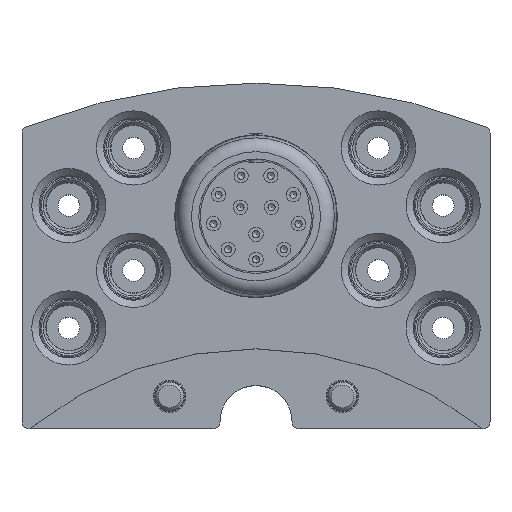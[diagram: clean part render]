
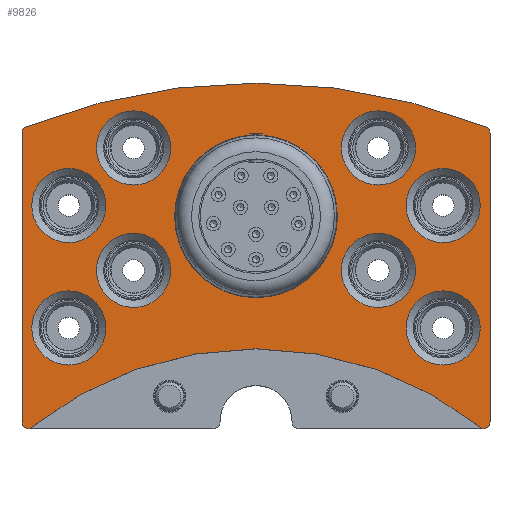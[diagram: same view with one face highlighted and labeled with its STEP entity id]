
A CAD part, top view. The second image highlights one B-rep face of the part: STEP entity #9826.
In plain terms, the highlighted planar face has unit normal (0, 0, 1).
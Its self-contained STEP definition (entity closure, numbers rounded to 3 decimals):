
#256=FACE_BOUND('',#1511,.T.);
#257=FACE_BOUND('',#1512,.T.);
#258=FACE_BOUND('',#1513,.T.);
#259=FACE_BOUND('',#1514,.T.);
#260=FACE_BOUND('',#1515,.T.);
#261=FACE_BOUND('',#1516,.T.);
#262=FACE_BOUND('',#1517,.T.);
#263=FACE_BOUND('',#1518,.T.);
#264=FACE_BOUND('',#1519,.T.);
#453=PLANE('',#11020);
#913=FACE_OUTER_BOUND('',#1510,.T.);
#1510=EDGE_LOOP('',(#8284,#8285,#8286,#8287,#8288,#8289,#8290,#8291,#8292,
#8293));
#1511=EDGE_LOOP('',(#8294,#8295));
#1512=EDGE_LOOP('',(#8296));
#1513=EDGE_LOOP('',(#8297));
#1514=EDGE_LOOP('',(#8298));
#1515=EDGE_LOOP('',(#8299));
#1516=EDGE_LOOP('',(#8300));
#1517=EDGE_LOOP('',(#8301));
#1518=EDGE_LOOP('',(#8302));
#1519=EDGE_LOOP('',(#8303));
#2360=CIRCLE('',#11016,1.);
#2361=CIRCLE('',#11018,87.);
#2363=CIRCLE('',#11021,1.);
#2364=CIRCLE('',#11022,50.1);
#2365=CIRCLE('',#11023,1.);
#2366=CIRCLE('',#11024,1.);
#2367=CIRCLE('',#11025,11.3);
#2368=CIRCLE('',#11026,11.3);
#2369=CIRCLE('',#11027,5.15);
#2370=CIRCLE('',#11028,5.15);
#2371=CIRCLE('',#11029,5.15);
#2372=CIRCLE('',#11030,5.15);
#2373=CIRCLE('',#11031,5.15);
#2374=CIRCLE('',#11032,5.15);
#2375=CIRCLE('',#11033,5.15);
#2376=CIRCLE('',#11034,5.15);
#2925=LINE('',#18280,#3453);
#2926=LINE('',#18284,#3454);
#2927=LINE('',#18288,#3455);
#2928=LINE('',#18292,#3456);
#3453=VECTOR('',#13865,10.);
#3454=VECTOR('',#13868,10.);
#3455=VECTOR('',#13871,10.);
#3456=VECTOR('',#13874,10.);
#4363=VERTEX_POINT('',#18267);
#4364=VERTEX_POINT('',#18269);
#4365=VERTEX_POINT('',#18273);
#4367=VERTEX_POINT('',#18279);
#4368=VERTEX_POINT('',#18281);
#4369=VERTEX_POINT('',#18283);
#4370=VERTEX_POINT('',#18285);
#4371=VERTEX_POINT('',#18287);
#4372=VERTEX_POINT('',#18289);
#4373=VERTEX_POINT('',#18291);
#4374=VERTEX_POINT('',#18294);
#4375=VERTEX_POINT('',#18295);
#4376=VERTEX_POINT('',#18298);
#4377=VERTEX_POINT('',#18300);
#4378=VERTEX_POINT('',#18302);
#4379=VERTEX_POINT('',#18304);
#4380=VERTEX_POINT('',#18306);
#4381=VERTEX_POINT('',#18308);
#4382=VERTEX_POINT('',#18310);
#4383=VERTEX_POINT('',#18312);
#5703=EDGE_CURVE('',#4363,#4364,#2360,.T.);
#5705=EDGE_CURVE('',#4365,#4364,#2361,.T.);
#5708=EDGE_CURVE('',#4363,#4367,#2925,.T.);
#5709=EDGE_CURVE('',#4368,#4367,#2363,.T.);
#5710=EDGE_CURVE('',#4368,#4369,#2926,.T.);
#5711=EDGE_CURVE('',#4369,#4370,#2364,.T.);
#5712=EDGE_CURVE('',#4370,#4371,#2927,.T.);
#5713=EDGE_CURVE('',#4372,#4371,#2365,.T.);
#5714=EDGE_CURVE('',#4372,#4373,#2928,.T.);
#5715=EDGE_CURVE('',#4365,#4373,#2366,.T.);
#5716=EDGE_CURVE('',#4374,#4375,#2367,.T.);
#5717=EDGE_CURVE('',#4375,#4374,#2368,.T.);
#5718=EDGE_CURVE('',#4376,#4376,#2369,.T.);
#5719=EDGE_CURVE('',#4377,#4377,#2370,.T.);
#5720=EDGE_CURVE('',#4378,#4378,#2371,.T.);
#5721=EDGE_CURVE('',#4379,#4379,#2372,.T.);
#5722=EDGE_CURVE('',#4380,#4380,#2373,.T.);
#5723=EDGE_CURVE('',#4381,#4381,#2374,.T.);
#5724=EDGE_CURVE('',#4382,#4382,#2375,.T.);
#5725=EDGE_CURVE('',#4383,#4383,#2376,.T.);
#8284=ORIENTED_EDGE('',*,*,#5703,.F.);
#8285=ORIENTED_EDGE('',*,*,#5708,.T.);
#8286=ORIENTED_EDGE('',*,*,#5709,.F.);
#8287=ORIENTED_EDGE('',*,*,#5710,.T.);
#8288=ORIENTED_EDGE('',*,*,#5711,.T.);
#8289=ORIENTED_EDGE('',*,*,#5712,.T.);
#8290=ORIENTED_EDGE('',*,*,#5713,.F.);
#8291=ORIENTED_EDGE('',*,*,#5714,.T.);
#8292=ORIENTED_EDGE('',*,*,#5715,.F.);
#8293=ORIENTED_EDGE('',*,*,#5705,.T.);
#8294=ORIENTED_EDGE('',*,*,#5716,.T.);
#8295=ORIENTED_EDGE('',*,*,#5717,.T.);
#8296=ORIENTED_EDGE('',*,*,#5718,.F.);
#8297=ORIENTED_EDGE('',*,*,#5719,.F.);
#8298=ORIENTED_EDGE('',*,*,#5720,.F.);
#8299=ORIENTED_EDGE('',*,*,#5721,.F.);
#8300=ORIENTED_EDGE('',*,*,#5722,.F.);
#8301=ORIENTED_EDGE('',*,*,#5723,.F.);
#8302=ORIENTED_EDGE('',*,*,#5724,.F.);
#8303=ORIENTED_EDGE('',*,*,#5725,.F.);
#9826=ADVANCED_FACE('',(#913,#256,#257,#258,#259,#260,#261,#262,#263,#264),
#453,.T.);
#11016=AXIS2_PLACEMENT_3D('',#18270,#13853,#13854);
#11018=AXIS2_PLACEMENT_3D('',#18274,#13858,#13859);
#11020=AXIS2_PLACEMENT_3D('',#18278,#13863,#13864);
#11021=AXIS2_PLACEMENT_3D('',#18282,#13866,#13867);
#11022=AXIS2_PLACEMENT_3D('',#18286,#13869,#13870);
#11023=AXIS2_PLACEMENT_3D('',#18290,#13872,#13873);
#11024=AXIS2_PLACEMENT_3D('',#18293,#13875,#13876);
#11025=AXIS2_PLACEMENT_3D('',#18296,#13877,#13878);
#11026=AXIS2_PLACEMENT_3D('',#18297,#13879,#13880);
#11027=AXIS2_PLACEMENT_3D('',#18299,#13881,#13882);
#11028=AXIS2_PLACEMENT_3D('',#18301,#13883,#13884);
#11029=AXIS2_PLACEMENT_3D('',#18303,#13885,#13886);
#11030=AXIS2_PLACEMENT_3D('',#18305,#13887,#13888);
#11031=AXIS2_PLACEMENT_3D('',#18307,#13889,#13890);
#11032=AXIS2_PLACEMENT_3D('',#18309,#13891,#13892);
#11033=AXIS2_PLACEMENT_3D('',#18311,#13893,#13894);
#11034=AXIS2_PLACEMENT_3D('',#18313,#13895,#13896);
#13853=DIRECTION('center_axis',(0.,0.,-1.));
#13854=DIRECTION('ref_axis',(-0.827,0.563,0.));
#13858=DIRECTION('center_axis',(0.,0.,1.));
#13859=DIRECTION('ref_axis',(0.374,0.928,0.));
#13863=DIRECTION('center_axis',(0.,0.,1.));
#13864=DIRECTION('ref_axis',(1.,0.,0.));
#13865=DIRECTION('',(0.,-1.,0.));
#13866=DIRECTION('center_axis',(0.,0.,-1.));
#13867=DIRECTION('ref_axis',(-0.707,-0.707,0.));
#13868=DIRECTION('',(1.,0.,0.));
#13869=DIRECTION('center_axis',(0.,0.,-1.));
#13870=DIRECTION('ref_axis',(-1.,0.,0.));
#13871=DIRECTION('',(1.,0.,0.));
#13872=DIRECTION('center_axis',(0.,0.,-1.));
#13873=DIRECTION('ref_axis',(0.707,-0.707,0.));
#13874=DIRECTION('',(0.,1.,0.));
#13875=DIRECTION('center_axis',(0.,0.,-1.));
#13876=DIRECTION('ref_axis',(0.827,0.563,0.));
#13877=DIRECTION('center_axis',(0.,0.,-1.));
#13878=DIRECTION('ref_axis',(0.,-1.,0.));
#13879=DIRECTION('center_axis',(0.,0.,-1.));
#13880=DIRECTION('ref_axis',(0.,-1.,0.));
#13881=DIRECTION('center_axis',(0.,0.,1.));
#13882=DIRECTION('ref_axis',(-1.,0.,0.));
#13883=DIRECTION('center_axis',(0.,0.,1.));
#13884=DIRECTION('ref_axis',(-1.,0.,0.));
#13885=DIRECTION('center_axis',(0.,0.,1.));
#13886=DIRECTION('ref_axis',(-1.,0.,0.));
#13887=DIRECTION('center_axis',(0.,0.,1.));
#13888=DIRECTION('ref_axis',(-1.,0.,0.));
#13889=DIRECTION('center_axis',(0.,0.,1.));
#13890=DIRECTION('ref_axis',(-1.,0.,0.));
#13891=DIRECTION('center_axis',(0.,0.,1.));
#13892=DIRECTION('ref_axis',(-1.,0.,0.));
#13893=DIRECTION('center_axis',(0.,0.,1.));
#13894=DIRECTION('ref_axis',(-1.,0.,0.));
#13895=DIRECTION('center_axis',(0.,0.,1.));
#13896=DIRECTION('ref_axis',(-1.,0.,0.));
#18267=CARTESIAN_POINT('',(-32.5,80.023,0.));
#18269=CARTESIAN_POINT('',(-31.866,80.954,0.));
#18270=CARTESIAN_POINT('Origin',(-31.5,80.023,0.));
#18273=CARTESIAN_POINT('',(31.866,80.954,0.));
#18274=CARTESIAN_POINT('Origin',(0.,0.,0.));
#18278=CARTESIAN_POINT('Origin',(0.,60.685,0.));
#18279=CARTESIAN_POINT('',(-32.5,40.,0.));
#18280=CARTESIAN_POINT('',(-32.5,80.702,0.));
#18281=CARTESIAN_POINT('',(-31.5,39.,0.));
#18282=CARTESIAN_POINT('Origin',(-31.5,40.,0.));
#18283=CARTESIAN_POINT('',(-31.449,39.,0.));
#18284=CARTESIAN_POINT('',(-32.5,39.,0.));
#18285=CARTESIAN_POINT('',(31.449,39.,0.));
#18286=CARTESIAN_POINT('Origin',(0.,0.,0.));
#18287=CARTESIAN_POINT('',(31.5,39.,0.));
#18288=CARTESIAN_POINT('',(5.,39.,0.));
#18289=CARTESIAN_POINT('',(32.5,40.,0.));
#18290=CARTESIAN_POINT('Origin',(31.5,40.,0.));
#18291=CARTESIAN_POINT('',(32.5,80.023,0.));
#18292=CARTESIAN_POINT('',(32.5,39.,0.));
#18293=CARTESIAN_POINT('Origin',(31.5,80.023,0.));
#18294=CARTESIAN_POINT('',(0.,57.2,0.));
#18295=CARTESIAN_POINT('',(0.,79.8,0.));
#18296=CARTESIAN_POINT('Origin',(0.,68.5,0.));
#18297=CARTESIAN_POINT('Origin',(0.,68.5,0.));
#18298=CARTESIAN_POINT('',(22.15,61.,0.));
#18299=CARTESIAN_POINT('Origin',(17.,61.,0.));
#18300=CARTESIAN_POINT('',(31.15,53.,0.));
#18301=CARTESIAN_POINT('Origin',(26.,53.,0.));
#18302=CARTESIAN_POINT('',(31.15,70.,0.));
#18303=CARTESIAN_POINT('Origin',(26.,70.,0.));
#18304=CARTESIAN_POINT('',(-11.85,78.,0.));
#18305=CARTESIAN_POINT('Origin',(-17.,78.,0.));
#18306=CARTESIAN_POINT('',(-20.85,70.,0.));
#18307=CARTESIAN_POINT('Origin',(-26.,70.,0.));
#18308=CARTESIAN_POINT('',(-20.85,53.,0.));
#18309=CARTESIAN_POINT('Origin',(-26.,53.,0.));
#18310=CARTESIAN_POINT('',(-11.85,61.,0.));
#18311=CARTESIAN_POINT('Origin',(-17.,61.,0.));
#18312=CARTESIAN_POINT('',(22.15,78.,0.));
#18313=CARTESIAN_POINT('Origin',(17.,78.,0.));
